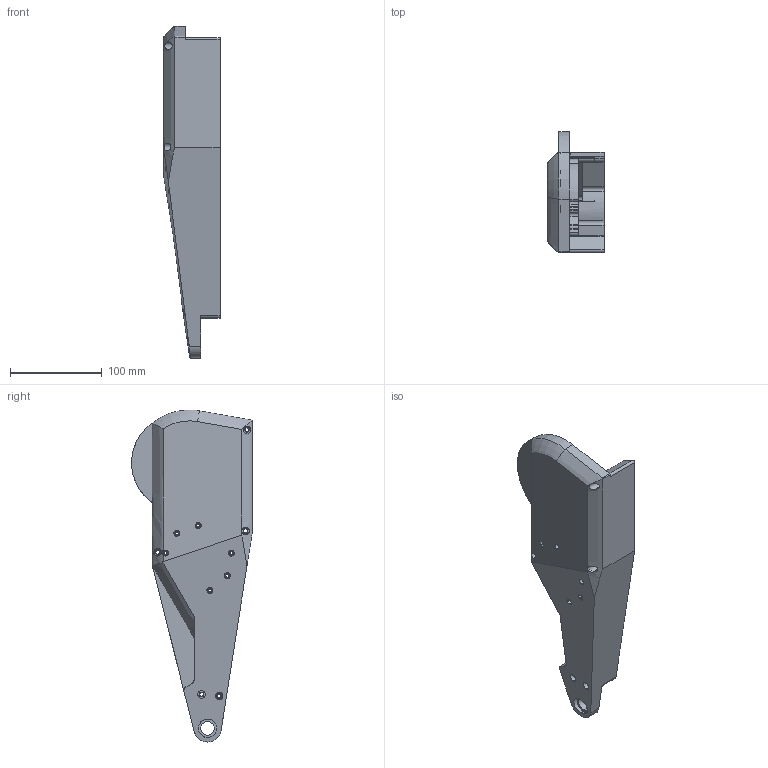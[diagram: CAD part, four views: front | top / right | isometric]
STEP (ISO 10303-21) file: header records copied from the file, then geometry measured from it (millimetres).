
FILE_DESCRIPTION((''),'2;1');
FILE_NAME('KD-D-402R_1','2025-07-12T17:42:14',('Administrator'),(''),'CREO PARAMETRIC BY PTC INC, 2022073','CREO PARAMETRIC BY PTC INC, 2022073','');
FILE_SCHEMA(('CONFIG_CONTROL_DESIGN'));
Length unit declared in the file: millimetre
Products named in the file (1): KD-D-402R_1
Bounding box: 61.25 x 131.93 x 362.69 mm (x, y, z)
Volume: 210844.4 mm3; surface area: 160788.7 mm2
Topology: 1 solids, 1 shells, 309 faces, 987 edges, 690 vertices
Faces by surface type: cylinder 167, plane 92, cone 28, extrusion 16, torus 3, revolution 2, bspline 1
Entity records: 12889 total; most frequent: CARTESIAN_POINT 3936, ORIENTED_EDGE 1970, DIRECTION 1829, EDGE_CURVE 985, AXIS2_PLACEMENT_3D 706, VERTEX_POINT 690, CIRCLE 416, VECTOR 415
